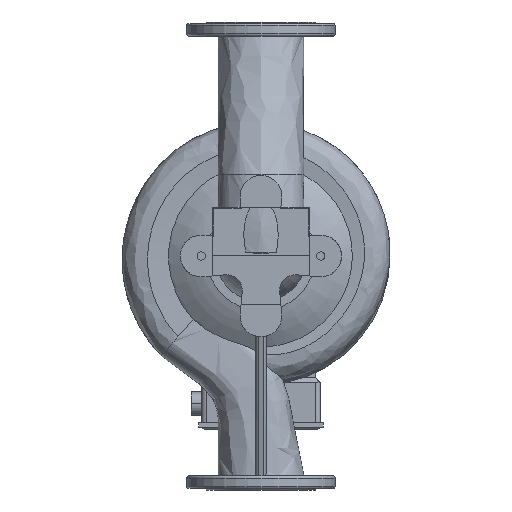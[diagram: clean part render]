
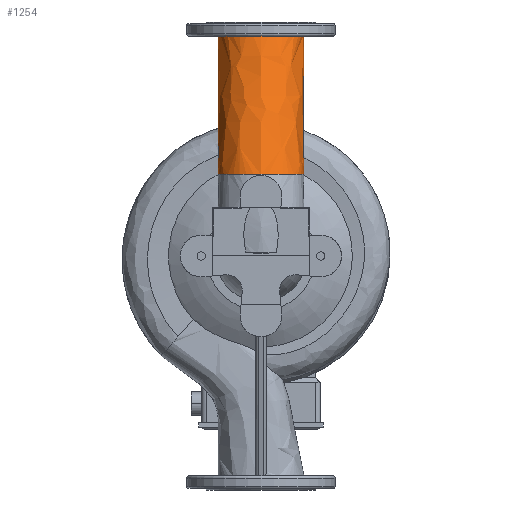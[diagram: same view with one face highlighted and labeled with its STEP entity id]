
A CAD part, front view. The second image highlights one B-rep face of the part: STEP entity #1254.
In plain terms, the highlighted free-form (B-spline) face has degree [3, 1] with [7, 2] control points.
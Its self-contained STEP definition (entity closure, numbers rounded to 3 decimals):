
#67 = VERTEX_POINT ( 'NONE', #30361 ) ;
#871 = AXIS2_PLACEMENT_3D ( 'NONE', #15006, #14207, #4838 ) ;
#1254 = ADVANCED_FACE ( 'NONE', ( #2681 ), #11331, .F. ) ;
#1768 = CARTESIAN_POINT ( 'NONE',  ( -82.5, -62.042, 289.951 ) ) ;
#2023 = CARTESIAN_POINT ( 'NONE',  ( 82.5, -289.083, 156.902 ) ) ;
#2368 = CARTESIAN_POINT ( 'NONE',  ( 82.5, 0., 423. ) ) ;
#2600 = VECTOR ( 'NONE', #29557, 1000. ) ;
#2681 = FACE_OUTER_BOUND ( 'NONE', #10204, .T. ) ;
#3723 = ORIENTED_EDGE ( 'NONE', *, *, #16622, .F. ) ;
#4128 = CARTESIAN_POINT ( 'NONE',  ( -82.5, 0., 423. ) ) ;
#4392 = CARTESIAN_POINT ( 'NONE',  ( 82.5, 0., 423. ) ) ;
#4467 = CARTESIAN_POINT ( 'NONE',  ( -82.5, -107.873, 191.667 ) ) ;
#4725 = CIRCLE ( 'NONE', #23661, 82.5 ) ;
#4838 = DIRECTION ( 'NONE',  ( -1., 0., 0. ) ) ;
#5436 = VECTOR ( 'NONE', #27789, 1000. ) ;
#6613 = VERTEX_POINT ( 'NONE', #2368 ) ;
#7796 = ORIENTED_EDGE ( 'NONE', *, *, #28427, .T. ) ;
#8373 = VERTEX_POINT ( 'NONE', #18269 ) ;
#8711 = ORIENTED_EDGE ( 'NONE', *, *, #24792, .F. ) ;
#8875 = VERTEX_POINT ( 'NONE', #12999 ) ;
#9084 = VERTEX_POINT ( 'NONE', #21285 ) ;
#9242 = ORIENTED_EDGE ( 'NONE', *, *, #17467, .T. ) ;
#9460 = DIRECTION ( 'NONE',  ( 0., 0., -1. ) ) ;
#10204 = EDGE_LOOP ( 'NONE', ( #9242, #7796, #25044, #3723, #12382, #8711 ) ) ;
#10220 = EDGE_CURVE ( 'NONE', #8373, #25999, #17177, .T. ) ;
#10467 = CARTESIAN_POINT ( 'NONE',  ( -82.5, 0., 423. ) ) ;
#11008 = B_SPLINE_CURVE_WITH_KNOTS ( 'NONE', 1,
 ( #4467, #4128 ),
 .UNSPECIFIED., .F., .F.,
 ( 2, 2 ),
 ( 0.131, 1. ),
 .UNSPECIFIED. ) ;
#11331 =( BOUNDED_SURFACE ( )  B_SPLINE_SURFACE ( 3, 1, ( 
 ( #17592, #10467 ),
 ( #13015, #25234 ),
 ( #12847, #15542 ),
 ( #12673, #17759 ),
 ( #2023, #25898 ),
 ( #12358, #20468 ),
 ( #23004, #33342 ) ),
 .UNSPECIFIED., .T., .F., .F. ) 
 B_SPLINE_SURFACE_WITH_KNOTS ( ( 4, 3, 4 ),
 ( 2, 2 ),
 ( 0., 0.5, 1. ),
 ( 0., 1. ),
 .UNSPECIFIED. ) 
 GEOMETRIC_REPRESENTATION_ITEM ( )  RATIONAL_B_SPLINE_SURFACE ( (
 ( 1., 1.),
 ( 0.333, 0.333),
 ( 0.333, 0.333),
 ( 1., 1.),
 ( 0.333, 0.333),
 ( 0.333, 0.333),
 ( 1., 1.) ) ) 
 REPRESENTATION_ITEM ( '' )  SURFACE ( )  );
#12349 = CARTESIAN_POINT ( 'NONE',  ( 0., 0., 423. ) ) ;
#12358 = CARTESIAN_POINT ( 'NONE',  ( -82.5, -289.083, 156.902 ) ) ;
#12382 = ORIENTED_EDGE ( 'NONE', *, *, #10220, .F. ) ;
#12673 = CARTESIAN_POINT ( 'NONE',  ( 82.5, -124.083, 156.902 ) ) ;
#12847 = CARTESIAN_POINT ( 'NONE',  ( 82.5, 40.917, 156.902 ) ) ;
#12999 = CARTESIAN_POINT ( 'NONE',  ( -82.5, 0., 423. ) ) ;
#13015 = CARTESIAN_POINT ( 'NONE',  ( -82.5, 40.917, 156.902 ) ) ;
#14207 = DIRECTION ( 'NONE',  ( 0., 0., -1. ) ) ;
#15006 = CARTESIAN_POINT ( 'NONE',  ( 0., -124.083, 156.902 ) ) ;
#15542 = CARTESIAN_POINT ( 'NONE',  ( 82.5, 165., 423. ) ) ;
#16622 = EDGE_CURVE ( 'NONE', #25999, #8875, #11008, .T. ) ;
#17177 = LINE ( 'NONE', #1768, #2600 ) ;
#17467 = EDGE_CURVE ( 'NONE', #67, #9084, #22353, .T. ) ;
#17592 = CARTESIAN_POINT ( 'NONE',  ( -82.5, -124.083, 156.902 ) ) ;
#17759 = CARTESIAN_POINT ( 'NONE',  ( 82.5, 0., 423. ) ) ;
#18269 = CARTESIAN_POINT ( 'NONE',  ( -82.5, -124.083, 156.902 ) ) ;
#20468 = CARTESIAN_POINT ( 'NONE',  ( -82.5, -165., 423. ) ) ;
#20876 = CIRCLE ( 'NONE', #871, 82.5 ) ;
#21285 = CARTESIAN_POINT ( 'NONE',  ( 82.5, -107.873, 191.667 ) ) ;
#22353 = LINE ( 'NONE', #32690, #5436 ) ;
#23004 = CARTESIAN_POINT ( 'NONE',  ( -82.5, -124.083, 156.902 ) ) ;
#23661 = AXIS2_PLACEMENT_3D ( 'NONE', #12349, #9460, #25056 ) ;
#23825 = B_SPLINE_CURVE_WITH_KNOTS ( 'NONE', 1,
 ( #27949, #4392 ),
 .UNSPECIFIED., .F., .F.,
 ( 2, 2 ),
 ( 0.131, 1. ),
 .UNSPECIFIED. ) ;
#24792 = EDGE_CURVE ( 'NONE', #67, #8373, #20876, .T. ) ;
#25044 = ORIENTED_EDGE ( 'NONE', *, *, #28446, .T. ) ;
#25056 = DIRECTION ( 'NONE',  ( -1., 0., 0. ) ) ;
#25234 = CARTESIAN_POINT ( 'NONE',  ( -82.5, 165., 423. ) ) ;
#25898 = CARTESIAN_POINT ( 'NONE',  ( 82.5, -165., 423. ) ) ;
#25999 = VERTEX_POINT ( 'NONE', #29315 ) ;
#27789 = DIRECTION ( 'NONE',  ( 0., 0.423, 0.906 ) ) ;
#27949 = CARTESIAN_POINT ( 'NONE',  ( 82.5, -107.873, 191.667 ) ) ;
#28427 = EDGE_CURVE ( 'NONE', #9084, #6613, #23825, .T. ) ;
#28446 = EDGE_CURVE ( 'NONE', #6613, #8875, #4725, .T. ) ;
#29315 = CARTESIAN_POINT ( 'NONE',  ( -82.5, -107.873, 191.667 ) ) ;
#29557 = DIRECTION ( 'NONE',  ( 0., 0.423, 0.906 ) ) ;
#30361 = CARTESIAN_POINT ( 'NONE',  ( 82.5, -124.083, 156.902 ) ) ;
#32690 = CARTESIAN_POINT ( 'NONE',  ( 82.5, -62.042, 289.951 ) ) ;
#33342 = CARTESIAN_POINT ( 'NONE',  ( -82.5, 0., 423. ) ) ;
